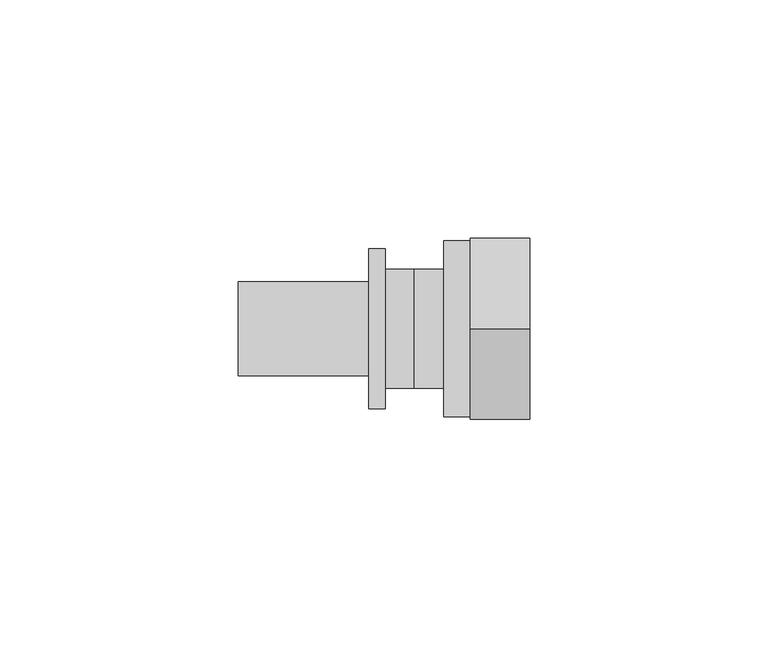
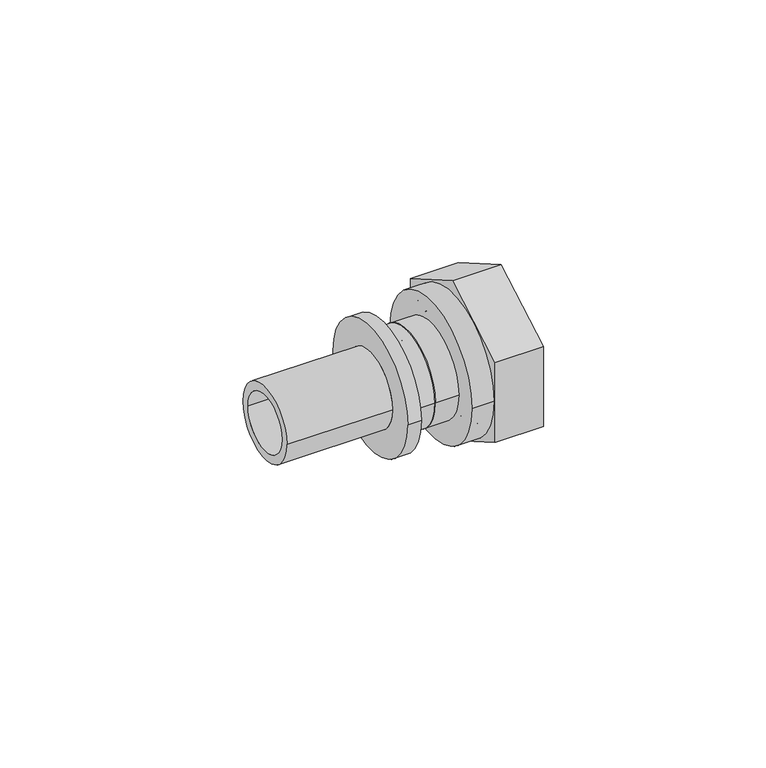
"""IFC4 building model written with IfcOpenShell, lengths in millimetres: pipe fitting geometry, REHAU_RAUTITAN_Adaptor_RX+_union nut : REHAU_RAUTITAN_Adaptor_RX+_union nut."""

import ifcopenshell
import ifcopenshell.guid

model = None  # the IFC model being written
_history = None  # IfcOwnerHistory: only IFC2X3 demands one
_inside = {}  # id of a spatial element -> (the spatial element, [elements in it])
_under = {}  # id of a project, library or spatial element -> (it, [spatial elements below it])
_declared = {}  # id of a project -> (the project, [libraries it declares])
_typed = {}  # id of a type object -> (the type object, [elements of that type])
_made_of = {}  # id of a material, layer set ... -> (it, [elements and type objects made of it])


def new_model(schema):
    """Start an empty IFC model of exactly this schema.

    Asked for "IFC4X3", IfcOpenShell would pick the latest addendum, in which some entities
    have other attributes; the version numbers below select the first issue.
    IFC2X3 requires an IfcOwnerHistory on every rooted entity: one is made here for all.
    """
    global model, _history
    if schema == "IFC4X3":
        model = ifcopenshell.file(schema_version=(4, 3, 0, 0))
    else:
        model = ifcopenshell.file(schema=schema)
    _inside.clear()
    _under.clear()
    _declared.clear()
    _typed.clear()
    _made_of.clear()
    _history = None
    if model.schema == "IFC2X3":
        org = make("IfcOrganization", Name="unknown")
        user = make(
            "IfcPersonAndOrganization",
            ThePerson=make("IfcPerson", FamilyName="unknown"),
            TheOrganization=org,
        )
        app = make(
            "IfcApplication",
            ApplicationDeveloper=org,
            Version="unknown",
            ApplicationFullName="unknown",
            ApplicationIdentifier="unknown",
        )
        _history = make(
            "IfcOwnerHistory",
            OwningUser=user,
            OwningApplication=app,
            ChangeAction="ADDED",
            CreationDate=0,
        )
    return model


def make(cls, **values):
    """One entity of the class cls with the attributes given. An attribute that is None is left unset."""
    return model.create_entity(
        cls, **{name: value for name, value in values.items() if value is not None}
    )


def rooted(cls, **values):
    """An entity with a GlobalId (a new one), such as an element, a storey or a relation."""
    return make(cls, GlobalId=ifcopenshell.guid.new(), OwnerHistory=_history, **values)


def si_unit(unit_type, name, prefix=None):
    """IfcSIUnit, for example si_unit("LENGTHUNIT", "METRE", prefix="MILLI")."""
    return make("IfcSIUnit", UnitType=unit_type, Prefix=prefix, Name=name)


def assignment(units):
    """IfcUnitAssignment: the units of a project."""
    return None if units is None else make("IfcUnitAssignment", Units=units)


def point(xyz):
    """IfcCartesianPoint."""
    return None if xyz is None else make("IfcCartesianPoint", Coordinates=xyz)


def direction(xyz):
    """IfcDirection."""
    return None if xyz is None else make("IfcDirection", DirectionRatios=xyz)


def frame(location, z_axis=None, x_axis=None):
    """IfcAxis2Placement3D, a coordinate frame: its origin and axes. An axis left out is left unset."""
    return make(
        "IfcAxis2Placement3D",
        Location=point(location),
        Axis=direction(z_axis),
        RefDirection=direction(x_axis),
    )


def frame_2d(location, x_axis=None):
    """IfcAxis2Placement2D, a coordinate frame in the plane: its origin and x axis."""
    return make(
        "IfcAxis2Placement2D", Location=point(location), RefDirection=direction(x_axis)
    )


def origin():
    """The frame at (0, 0, 0) with its axes left unset."""
    return frame((0.0, 0.0, 0.0))


def origin_2d():
    """The frame at (0, 0) in the plane with its x axis left unset."""
    return frame_2d((0.0, 0.0))


def place(relative_to, where):
    """IfcLocalPlacement: puts the frame where relative to a parent placement (None: the world)."""
    return make(
        "IfcLocalPlacement", PlacementRelTo=relative_to, RelativePlacement=where
    )


def context(
    kind, dimensions, precision=None, world=None, true_north=None, identifier=None
):
    """IfcGeometricRepresentationContext, for example the 3D "Model" context."""
    return make(
        "IfcGeometricRepresentationContext",
        ContextIdentifier=identifier,
        ContextType=kind,
        CoordinateSpaceDimension=dimensions,
        Precision=precision,
        WorldCoordinateSystem=world,
        TrueNorth=true_north,
    )


def project(units=None, contexts=None):
    """IfcProject with its units and contexts."""
    return rooted(
        "IfcProject",
        Name="project",
        RepresentationContexts=contexts,
        UnitsInContext=assignment(units),
    )


def spatial(cls, under=None, at=None, **own):
    """A site, building, storey or space (cls), placed at a placement, below another one or the project."""
    s = rooted(cls, ObjectPlacement=at, **own)
    if under is not None:
        _under.setdefault(under.id(), (under, []))[1].append(s)
    return s


def polyline(points):
    """IfcPolyline through the points."""
    return make("IfcPolyline", Points=[point(p) for p in points])


def circle_curve(where, radius):
    """IfcCircle in the frame where."""
    return make("IfcCircle", Position=where, Radius=radius)


def trimmed(basis, trim1, trim2, sense, master):
    """IfcTrimmedCurve: the piece of a basis curve between two trims."""
    return make(
        "IfcTrimmedCurve",
        BasisCurve=basis,
        Trim1=trim1,
        Trim2=trim2,
        SenseAgreement=sense,
        MasterRepresentation=master,
    )


def segment(curve, same_sense, transition):
    """IfcCompositeCurveSegment."""
    return make(
        "IfcCompositeCurveSegment",
        Transition=transition,
        SameSense=same_sense,
        ParentCurve=curve,
    )


def composite_curve(segments, self_intersect=None):
    """IfcCompositeCurve: segments joined end to end."""
    return make("IfcCompositeCurve", Segments=segments, SelfIntersect=self_intersect)


def outline(outer, holes=None, kind="AREA"):
    """IfcArbitraryClosedProfileDef: a profile drawn as a closed curve; with holes, ...WithVoids."""
    if holes is None:
        return make("IfcArbitraryClosedProfileDef", ProfileType=kind, OuterCurve=outer)
    return make(
        "IfcArbitraryProfileDefWithVoids",
        ProfileType=kind,
        OuterCurve=outer,
        InnerCurves=holes,
    )


def extrude(swept, where, along, depth):
    """IfcExtrudedAreaSolid: the profile swept, set in the frame where, extruded along a direction by depth."""
    return make(
        "IfcExtrudedAreaSolid",
        SweptArea=swept,
        Position=where,
        ExtrudedDirection=direction(along),
        Depth=depth,
    )


def shape(context_of_items, identifier, shape_type, items):
    """IfcShapeRepresentation: the items that make up one representation, for example the "Body"."""
    return make(
        "IfcShapeRepresentation",
        ContextOfItems=context_of_items,
        RepresentationIdentifier=identifier,
        RepresentationType=shape_type,
        Items=items,
    )


def source(mapping_origin, context_of_items, identifier, shape_type, items):
    """IfcRepresentationMap: a shape defined once, which mapped items show again and again."""
    return make(
        "IfcRepresentationMap",
        MappingOrigin=mapping_origin,
        MappedRepresentation=shape(context_of_items, identifier, shape_type, items),
    )


def transform(
    local_origin,
    x_axis=None,
    y_axis=None,
    z_axis=None,
    scale=None,
    scale2=None,
    scale3=None,
    uniform=True,
):
    """IfcCartesianTransformationOperator3D, or its non-uniform kind. x_axis, y_axis, z_axis: its Axis1, 2, 3."""
    if uniform:
        return make(
            "IfcCartesianTransformationOperator3D",
            Axis1=direction(x_axis),
            Axis2=direction(y_axis),
            LocalOrigin=point(local_origin),
            Scale=scale,
            Axis3=direction(z_axis),
        )
    return make(
        "IfcCartesianTransformationOperator3DnonUniform",
        Axis1=direction(x_axis),
        Axis2=direction(y_axis),
        LocalOrigin=point(local_origin),
        Scale=scale,
        Axis3=direction(z_axis),
        Scale2=scale2,
        Scale3=scale3,
    )


def mapped(mapping_source, mapping_target):
    """IfcMappedItem: shows the shape of a source again, moved by a transform."""
    return make(
        "IfcMappedItem", MappingSource=mapping_source, MappingTarget=mapping_target
    )


def made_of(thing, what):
    """Note that an element or type object is made of a material, layer set ...; save() writes the relation."""
    if what is not None:
        _made_of.setdefault(what.id(), (what, []))[1].append(thing)
    return thing


def element(
    cls,
    number,
    at=None,
    inside=None,
    cuts=None,
    type_object=None,
    material=None,
    context=None,
    identifier="Body",
    shape_type=None,
    held_by="IfcProductDefinitionShape",
    body=None,
    shapes=None,
    **own,
):
    """One element of the class cls, such as IfcWall. Its Tag is "e" and its number.

    at: its placement. inside: the storey or other place that contains it. cuts: it is an
    opening in that element (IfcRelVoidsElement). A single representation is given by context,
    identifier, shape_type and body (its items); several are given by shapes. held_by: the class
    of the entity that holds the representations. save() writes the other relations.
    """
    e = rooted(cls, Tag="e%d" % number, ObjectPlacement=at, **own)
    if body is not None:
        shapes = [shape(context, identifier, shape_type, body)]
    if shapes is not None:
        e.Representation = make(held_by, Representations=shapes)
    if inside is not None:
        _inside.setdefault(inside.id(), (inside, []))[1].append(e)
    if cuts is not None:
        rooted(
            "IfcRelVoidsElement", RelatingBuildingElement=cuts, RelatedOpeningElement=e
        )
    if type_object is not None:
        _typed.setdefault(type_object.id(), (type_object, []))[1].append(e)
    return made_of(e, material)


def aggregate(whole, parts):
    """IfcRelAggregates: a whole, such as a stair, and the parts it consists of."""
    return rooted("IfcRelAggregates", RelatingObject=whole, RelatedObjects=parts)


def save(model, path):
    """Write the relations noted so far, then the file.

    IfcRelAggregates (storeys below a building ...), IfcRelContainedInSpatialStructure (elements
    in a storey), IfcRelDefinesByType, IfcRelAssociatesMaterial and IfcRelDeclares: one each for
    every whole, place, type object, material and project.
    """
    for whole, parts in _under.values():
        aggregate(whole, parts)
    for where, things in _inside.values():
        rooted(
            "IfcRelContainedInSpatialStructure",
            RelatedElements=things,
            RelatingStructure=where,
        )
    for kind, things in _typed.values():
        rooted("IfcRelDefinesByType", RelatedObjects=things, RelatingType=kind)
    for what, things in _made_of.values():
        rooted("IfcRelAssociatesMaterial", RelatedObjects=things, RelatingMaterial=what)
    for by, libraries in _declared.values():
        rooted("IfcRelDeclares", RelatingContext=by, RelatedDefinitions=libraries)
    model.write(path)


def plane_surface(at):
    """IfcPlane: the flat surface through the origin of the frame at, square to its z axis."""
    return make("IfcPlane", Position=at)


def cylinder_surface(at, radius):
    """IfcCylindricalSurface: all points at the distance radius from the z axis of the frame at."""
    return make("IfcCylindricalSurface", Position=at, Radius=radius)


def revolved_surface(curve, axis_point, axis_direction):
    """IfcSurfaceOfRevolution: the curve turned about the line through axis_point along axis_direction."""
    return make(
        "IfcSurfaceOfRevolution",
        SweptCurve=make("IfcArbitraryOpenProfileDef", ProfileType="CURVE", Curve=curve),
        AxisPosition=make("IfcAxis1Placement", Location=point(axis_point), Axis=direction(axis_direction)),
    )


def advanced_brep(points, edges, surfaces, faces):
    """IfcAdvancedBrep: a solid bounded by faces that lie on surfaces and meet in shared edges.

    An edge is (start, end): straight between two places in points (the first is 0);
    or (start, end, curve); or (start, end, curve, False) where it runs against its curve.
    A face is (place in surfaces, loops), or (place, loops, False) where it looks against
    its surface's normal. A loop lists edges by number (the first is 1), with a minus sign
    where the edge is run from its end to its start. The first loop is the outer one.
    """
    corners = [point(p) for p in points]
    vertices = [make("IfcVertexPoint", VertexGeometry=c) for c in corners]
    made = []
    for start, end, *more in edges:
        made.append(
            make(
                "IfcEdgeCurve",
                EdgeStart=vertices[start],
                EdgeEnd=vertices[end],
                EdgeGeometry=more[0] if more else make("IfcPolyline", Points=[corners[start], corners[end]]),
                SameSense=more[1] if len(more) > 1 else True,
            )
        )
    hull = []
    for where, loops, *sense in faces:
        bounds = []
        for j, loop in enumerate(loops):
            ring = [make("IfcOrientedEdge", EdgeElement=made[abs(k) - 1], Orientation=k > 0) for k in loop]
            bounds.append(
                make(
                    "IfcFaceOuterBound" if j == 0 else "IfcFaceBound",
                    Bound=make("IfcEdgeLoop", EdgeList=ring),
                    Orientation=True,
                )
            )
        hull.append(make("IfcAdvancedFace", Bounds=bounds, FaceSurface=surfaces[where], SameSense=sense[0] if sense else True))
    return make("IfcAdvancedBrep", Outer=make("IfcClosedShell", CfsFaces=hull))


def pipe_fitting_bc3ce7b6(model_context):
    return source(origin(), model_context, "Body", "SolidModel", [
        extrude(outline(polyline([(0.0, -21.9393102), (-19.0, -10.9696551), (-19.0, 10.9696551), (0.0, 21.9393102), (19.0, 10.9696551), (19.0, -10.9696551), (0.0, -21.9393102)]), holes=[composite_curve([segment(trimmed(circle_curve(origin_2d(), 18.5), [point((-18.5, 0.0))], [point((18.5, 0.0))], True, "CARTESIAN"), True, "CONTINUOUS"), segment(trimmed(circle_curve(origin_2d(), 18.5), [point((18.5, 0.0))], [point((-18.5, 0.0))], True, "CARTESIAN"), True, "CONTINUOUS")], self_intersect=False)]), frame((11.7, 0.0, 0.0), z_axis=(1.0, 0.0, 0.0), x_axis=(0.0, 1.0, 0.0)), (0.0, 0.0, 1.0), 12.5),
        advanced_brep(
        [(24.2, 18.5, 0.0), (24.2, -18.5, 0.0), (6.1, -18.5, 0.0), (6.1, 18.5, 0.0), (9.0, 15.3, 0.0), (9.0, -15.3, 0.0), (24.2, -15.3, 0.0), (24.2, 15.3, 0.0), (6.1, 12.4, 0.0), (6.1, -12.4, 0.0), (9.0, -12.4, 0.0), (9.0, 12.4, 0.0)],
        [
            (0, 1, circle_curve(frame((24.2, 0.0, 0.0), z_axis=(-1.0, 0.0, 0.0), x_axis=(0.0, -1.0, 0.0)), 18.5)),
            (1, 2),
            (2, 3, circle_curve(frame((6.1, 0.0, 0.0), z_axis=(1.0, 0.0, 0.0), x_axis=(0.0, -1.0, 0.0)), 18.5)),
            (3, 0),
            (4, 5, circle_curve(frame((9.0, 0.0, 0.0), z_axis=(-1.0, 0.0, 0.0), x_axis=(0.0, -1.0, 0.0)), 15.3)),
            (5, 6),
            (6, 7, circle_curve(frame((24.2, 0.0, 0.0), z_axis=(1.0, 0.0, 0.0), x_axis=(0.0, -1.0, 0.0)), 15.3)),
            (7, 4),
            (8, 9, circle_curve(frame((6.1, 0.0, 0.0), z_axis=(-1.0, 0.0, 0.0), x_axis=(0.0, -1.0, 0.0)), 12.4)),
            (9, 10),
            (10, 11, circle_curve(frame((9.0, 0.0, 0.0), z_axis=(1.0, 0.0, 0.0), x_axis=(0.0, -1.0, 0.0)), 12.4)),
            (11, 8),
            (1, 0, circle_curve(frame((24.2, 0.0, 0.0), z_axis=(-1.0, 0.0, 0.0), x_axis=(0.0, 1.0, 0.0)), 18.5)),
            (3, 2, circle_curve(frame((6.1, 0.0, 0.0), z_axis=(1.0, 0.0, 0.0), x_axis=(0.0, 1.0, 0.0)), 18.5)),
            (6, 7, circle_curve(frame((24.2, 0.0, 0.0), z_axis=(-1.0, 0.0, 0.0), x_axis=(0.0, 1.0, 0.0)), 15.3)),
            (5, 4, circle_curve(frame((9.0, 0.0, 0.0), z_axis=(-1.0, 0.0, 0.0), x_axis=(0.0, 1.0, 0.0)), 15.3)),
            (10, 11, circle_curve(frame((9.0, 0.0, 0.0), z_axis=(-1.0, 0.0, 0.0), x_axis=(0.0, 1.0, 0.0)), 12.4)),
            (9, 8, circle_curve(frame((6.1, 0.0, 0.0), z_axis=(-1.0, 0.0, 0.0), x_axis=(0.0, 1.0, 0.0)), 12.4)),
        ],
        [
            cylinder_surface(frame((0.0, 0.0, 0.0), z_axis=(1.0, 0.0, 0.0), x_axis=(0.0, -1.0, 0.0)), 18.5),
            revolved_surface(polyline([(24.2, -15.3, 0.0), (9.0, -15.3, 0.0)]), (0.0, 0.0, 0.0), (1.0, 0.0, 0.0)),
            revolved_surface(polyline([(9.0, -12.4, 0.0), (6.1, -12.4, 0.0)]), (0.0, 0.0, 0.0), (1.0, 0.0, 0.0)),
            cylinder_surface(frame((0.0, 0.0, 0.0), z_axis=(1.0, 0.0, 0.0), x_axis=(0.0, 1.0, 0.0)), 18.5),
            plane_surface(frame((24.2, 0.0, 0.0), z_axis=(1.0, 0.0, 0.0), x_axis=(0.0, 1.0, 0.0))),
            revolved_surface(polyline([(24.2, 15.3, 0.0), (9.0, 15.3, 0.0)]), (0.0, 0.0, 0.0), (1.0, 0.0, 0.0)),
            plane_surface(frame((9.0, 0.0, 0.0), z_axis=(1.0, 0.0, 0.0), x_axis=(0.0, 1.0, 0.0))),
            revolved_surface(polyline([(9.0, 12.4, 0.0), (6.1, 12.4, 0.0)]), (0.0, 0.0, 0.0), (1.0, 0.0, 0.0)),
            plane_surface(frame((6.1, 0.0, 0.0), z_axis=(-1.0, 0.0, 0.0), x_axis=(0.0, 1.0, 0.0))),
        ],
        [
            (0, [[1, 2, 3, 4]]),
            (1, [[5, 6, 7, 8]]),
            (2, [[9, 10, 11, 12]]),
            (3, [[13, -4, 14, -2]]),
            (4, [[-13, -1], [15, -7]]),
            (5, [[16, -8, -15, -6]]),
            (6, [[-16, -5], [17, -11]]),
            (7, [[18, -12, -17, -10]]),
            (8, [[-14, -3], [-18, -9]]),
        ],
    ),
        advanced_brep(
        [(9.0, 12.5, 0.0), (9.0, -12.5, 0.0), (0.0, -12.5, 0.0), (0.0, 12.5, 0.0), (12.0, 15.3, 0.0), (12.0, -15.3, 0.0), (9.0, -15.3, 0.0), (9.0, 15.3, 0.0), (1.4730817, 10.0, 0.0), (1.4730817, -10.0, 0.0), (12.0, -10.0, 0.0), (12.0, 10.0, 0.0), (0.0, 7.8264556, 0.0), (0.0, -7.8264556, 0.0), (1.4730817, -7.8264556, 0.0), (1.4730817, 7.8264556, 0.0)],
        [
            (0, 1, circle_curve(frame((9.0, 0.0, 0.0), z_axis=(-1.0, 0.0, 0.0), x_axis=(0.0, -1.0, 0.0)), 12.5)),
            (1, 2),
            (2, 3, circle_curve(frame((0.0, 0.0, 0.0), z_axis=(1.0, 0.0, 0.0), x_axis=(0.0, -1.0, 0.0)), 12.5)),
            (3, 0),
            (4, 5, circle_curve(frame((12.0, 0.0, 0.0), z_axis=(-1.0, 0.0, 0.0), x_axis=(0.0, -1.0, 0.0)), 15.3)),
            (5, 6),
            (6, 7, circle_curve(frame((9.0, 0.0, 0.0), z_axis=(1.0, 0.0, 0.0), x_axis=(0.0, -1.0, 0.0)), 15.3)),
            (7, 4),
            (8, 9, circle_curve(frame((1.4730817, 0.0, 0.0), z_axis=(-1.0, 0.0, 0.0), x_axis=(0.0, -1.0, 0.0)), 10.0)),
            (9, 10),
            (10, 11, circle_curve(frame((12.0, 0.0, 0.0), z_axis=(1.0, 0.0, 0.0), x_axis=(0.0, -1.0, 0.0)), 10.0)),
            (11, 8),
            (2, 3, circle_curve(frame((0.0, 0.0, 0.0), z_axis=(-1.0, 0.0, 0.0), x_axis=(0.0, 1.0, 0.0)), 12.5)),
            (12, 13, circle_curve(frame((0.0, 0.0, 0.0), z_axis=(1.0, 0.0, 0.0), x_axis=(0.0, 1.0, 0.0)), 7.8264556)),
            (13, 12, circle_curve(frame((0.0, 0.0, 0.0), z_axis=(1.0, 0.0, 0.0), x_axis=(0.0, -1.0, 0.0)), 7.8264556)),
            (1, 0, circle_curve(frame((9.0, 0.0, 0.0), z_axis=(-1.0, 0.0, 0.0), x_axis=(0.0, 1.0, 0.0)), 12.5)),
            (6, 7, circle_curve(frame((9.0, 0.0, 0.0), z_axis=(-1.0, 0.0, 0.0), x_axis=(0.0, 1.0, 0.0)), 15.3)),
            (5, 4, circle_curve(frame((12.0, 0.0, 0.0), z_axis=(-1.0, 0.0, 0.0), x_axis=(0.0, 1.0, 0.0)), 15.3)),
            (10, 11, circle_curve(frame((12.0, 0.0, 0.0), z_axis=(-1.0, 0.0, 0.0), x_axis=(0.0, 1.0, 0.0)), 10.0)),
            (9, 8, circle_curve(frame((1.4730817, 0.0, 0.0), z_axis=(-1.0, 0.0, 0.0), x_axis=(0.0, 1.0, 0.0)), 10.0)),
            (13, 14),
            (14, 15, circle_curve(frame((1.4730817, 0.0, 0.0), z_axis=(1.0, 0.0, 0.0), x_axis=(0.0, -1.0, 0.0)), 7.8264556)),
            (15, 12),
            (14, 15, circle_curve(frame((1.4730817, 0.0, 0.0), z_axis=(-1.0, 0.0, 0.0), x_axis=(0.0, 1.0, 0.0)), 7.8264556)),
        ],
        [
            cylinder_surface(frame((0.0, 0.0, 0.0), z_axis=(1.0, 0.0, 0.0), x_axis=(0.0, -1.0, 0.0)), 12.5),
            cylinder_surface(frame((0.0, 0.0, 0.0), z_axis=(1.0, 0.0, 0.0), x_axis=(0.0, -1.0, 0.0)), 15.3),
            revolved_surface(polyline([(12.0, -10.0, 0.0), (1.4730817, -10.0, 0.0)]), (0.0, 0.0, 0.0), (1.0, 0.0, 0.0)),
            plane_surface(frame((0.0, 0.0, 0.0), z_axis=(-1.0, 0.0, 0.0), x_axis=(0.0, 1.0, 0.0))),
            cylinder_surface(frame((0.0, 0.0, 0.0), z_axis=(1.0, 0.0, 0.0), x_axis=(0.0, 1.0, 0.0)), 12.5),
            plane_surface(frame((9.0, 0.0, 0.0), z_axis=(-1.0, 0.0, 0.0), x_axis=(0.0, 1.0, 0.0))),
            cylinder_surface(frame((0.0, 0.0, 0.0), z_axis=(1.0, 0.0, 0.0), x_axis=(0.0, 1.0, 0.0)), 15.3),
            plane_surface(frame((12.0, 0.0, 0.0), z_axis=(1.0, 0.0, 0.0), x_axis=(0.0, 1.0, 0.0))),
            revolved_surface(polyline([(12.0, 10.0, 0.0), (1.4730817, 10.0, 0.0)]), (0.0, 0.0, 0.0), (1.0, 0.0, 0.0)),
            revolved_surface(polyline([(1.4730817, -7.8264556, 0.0), (0.0, -7.8264556, 0.0)]), (0.0, 0.0, 0.0), (1.0, 0.0, 0.0)),
            plane_surface(frame((1.4730817, 0.0, 0.0), z_axis=(1.0, 0.0, 0.0), x_axis=(0.0, 1.0, 0.0))),
            revolved_surface(polyline([(1.4730817, 7.8264556, 0.0), (0.0, 7.8264556, 0.0)]), (0.0, 0.0, 0.0), (1.0, 0.0, 0.0)),
        ],
        [
            (0, [[1, 2, 3, 4]]),
            (1, [[5, 6, 7, 8]]),
            (2, [[9, 10, 11, 12]]),
            (3, [[13, -3], [14, 15]]),
            (4, [[16, -4, -13, -2]]),
            (5, [[17, -7], [-16, -1]]),
            (6, [[18, -8, -17, -6]]),
            (7, [[-18, -5], [19, -11]]),
            (8, [[20, -12, -19, -10]]),
            (9, [[-15, 21, 22, 23]]),
            (10, [[-20, -9], [24, -22]]),
            (11, [[-14, -23, -24, -21]]),
        ],
    ),
        advanced_brep(
        [(0.0, 12.5, 0.0), (0.0, -12.5, 0.0), (-6.15, -12.5, 0.0), (-6.15, 12.5, 0.0), (-37.0, 7.6, 0.0), (-37.0, -7.6, 0.0), (0.0, -7.6, 0.0), (0.0, 7.6, 0.0), (-9.65, 9.875, 0.0), (-9.65, -9.875, 0.0), (-37.0, -9.875, 0.0), (-37.0, 9.875, 0.0), (-6.15, 16.8, 0.0), (-6.15, -16.8, 0.0), (-9.65, -16.8, 0.0), (-9.65, 16.8, 0.0)],
        [
            (0, 1, circle_curve(frame((0.0, 0.0, 0.0), z_axis=(-1.0, 0.0, 0.0), x_axis=(0.0, -1.0, 0.0)), 12.5)),
            (1, 2),
            (2, 3, circle_curve(frame((-6.15, 0.0, 0.0), z_axis=(1.0, 0.0, 0.0), x_axis=(0.0, -1.0, 0.0)), 12.5)),
            (3, 0),
            (4, 5, circle_curve(frame((-37.0, 0.0, 0.0), z_axis=(-1.0, 0.0, 0.0), x_axis=(0.0, -1.0, 0.0)), 7.6)),
            (5, 6),
            (6, 7, circle_curve(frame((0.0, 0.0, 0.0), z_axis=(1.0, 0.0, 0.0), x_axis=(0.0, -1.0, 0.0)), 7.6)),
            (7, 4),
            (8, 9, circle_curve(frame((-9.65, 0.0, 0.0), z_axis=(-1.0, 0.0, 0.0), x_axis=(0.0, -1.0, 0.0)), 9.875)),
            (9, 10),
            (10, 11, circle_curve(frame((-37.0, 0.0, 0.0), z_axis=(1.0, 0.0, 0.0), x_axis=(0.0, -1.0, 0.0)), 9.875)),
            (11, 8),
            (12, 13, circle_curve(frame((-6.15, 0.0, 0.0), z_axis=(-1.0, 0.0, 0.0), x_axis=(0.0, -1.0, 0.0)), 16.8)),
            (13, 14),
            (14, 15, circle_curve(frame((-9.65, 0.0, 0.0), z_axis=(1.0, 0.0, 0.0), x_axis=(0.0, -1.0, 0.0)), 16.8)),
            (15, 12),
            (1, 0, circle_curve(frame((0.0, 0.0, 0.0), z_axis=(-1.0, 0.0, 0.0), x_axis=(0.0, 1.0, 0.0)), 12.5)),
            (3, 2, circle_curve(frame((-6.15, 0.0, 0.0), z_axis=(1.0, 0.0, 0.0), x_axis=(0.0, 1.0, 0.0)), 12.5)),
            (6, 7, circle_curve(frame((0.0, 0.0, 0.0), z_axis=(-1.0, 0.0, 0.0), x_axis=(0.0, 1.0, 0.0)), 7.6)),
            (5, 4, circle_curve(frame((-37.0, 0.0, 0.0), z_axis=(-1.0, 0.0, 0.0), x_axis=(0.0, 1.0, 0.0)), 7.6)),
            (10, 11, circle_curve(frame((-37.0, 0.0, 0.0), z_axis=(-1.0, 0.0, 0.0), x_axis=(0.0, 1.0, 0.0)), 9.875)),
            (9, 8, circle_curve(frame((-9.65, 0.0, 0.0), z_axis=(-1.0, 0.0, 0.0), x_axis=(0.0, 1.0, 0.0)), 9.875)),
            (14, 15, circle_curve(frame((-9.65, 0.0, 0.0), z_axis=(-1.0, 0.0, 0.0), x_axis=(0.0, 1.0, 0.0)), 16.8)),
            (13, 12, circle_curve(frame((-6.15, 0.0, 0.0), z_axis=(-1.0, 0.0, 0.0), x_axis=(0.0, 1.0, 0.0)), 16.8)),
        ],
        [
            cylinder_surface(frame((0.0, 0.0, 0.0), z_axis=(1.0, 0.0, 0.0), x_axis=(0.0, -1.0, 0.0)), 12.5),
            revolved_surface(polyline([(0.0, -7.6, 0.0), (-37.0, -7.6, 0.0)]), (0.0, 0.0, 0.0), (1.0, 0.0, 0.0)),
            cylinder_surface(frame((0.0, 0.0, 0.0), z_axis=(1.0, 0.0, 0.0), x_axis=(0.0, -1.0, 0.0)), 9.875),
            cylinder_surface(frame((0.0, 0.0, 0.0), z_axis=(1.0, 0.0, 0.0), x_axis=(0.0, -1.0, 0.0)), 16.8),
            cylinder_surface(frame((0.0, 0.0, 0.0), z_axis=(1.0, 0.0, 0.0), x_axis=(0.0, 1.0, 0.0)), 12.5),
            plane_surface(frame((0.0, 0.0, 0.0), z_axis=(1.0, 0.0, 0.0), x_axis=(0.0, 1.0, 0.0))),
            revolved_surface(polyline([(0.0, 7.6, 0.0), (-37.0, 7.6, 0.0)]), (0.0, 0.0, 0.0), (1.0, 0.0, 0.0)),
            plane_surface(frame((-37.0, 0.0, 0.0), z_axis=(-1.0, 0.0, 0.0), x_axis=(0.0, 1.0, 0.0))),
            cylinder_surface(frame((0.0, 0.0, 0.0), z_axis=(1.0, 0.0, 0.0), x_axis=(0.0, 1.0, 0.0)), 9.875),
            plane_surface(frame((-9.65, 0.0, 0.0), z_axis=(-1.0, 0.0, 0.0), x_axis=(0.0, 1.0, 0.0))),
            cylinder_surface(frame((0.0, 0.0, 0.0), z_axis=(1.0, 0.0, 0.0), x_axis=(0.0, 1.0, 0.0)), 16.8),
            plane_surface(frame((-6.15, 0.0, 0.0), z_axis=(1.0, 0.0, 0.0), x_axis=(0.0, 1.0, 0.0))),
        ],
        [
            (0, [[1, 2, 3, 4]]),
            (1, [[5, 6, 7, 8]]),
            (2, [[9, 10, 11, 12]]),
            (3, [[13, 14, 15, 16]]),
            (4, [[17, -4, 18, -2]]),
            (5, [[-17, -1], [19, -7]]),
            (6, [[20, -8, -19, -6]]),
            (7, [[21, -11], [-20, -5]]),
            (8, [[22, -12, -21, -10]]),
            (9, [[23, -15], [-22, -9]]),
            (10, [[24, -16, -23, -14]]),
            (11, [[-24, -13], [-18, -3]]),
        ],
    ),
    ])


if __name__ == "__main__":
    model = new_model("IFC4")
    model_context = context("Model", 3, world=origin())
    ifc_project = project(units=[si_unit("LENGTHUNIT", "METRE", prefix="MILLI")], contexts=[model_context])
    site = spatial("IfcSite", under=ifc_project)
    building = spatial("IfcBuilding", under=site)
    placement = place(None, origin())
    pipe_fitting_shape = pipe_fitting_bc3ce7b6(model_context)
    element("IfcPipeFitting", 1, ObjectType="REHAU_RAUTITAN_Adaptor_RX+_union nut : REHAU_RAUTITAN_Adaptor_RX+_union nut", at=placement, inside=building, context=model_context, shape_type="MappedRepresentation", body=[
        mapped(pipe_fitting_shape, transform((0.0, 0.0, 0.0), x_axis=(1.0, 0.0, 0.0), y_axis=(0.0, 1.0, 0.0), z_axis=(0.0, 0.0, 1.0))),
    ])
    save(model, "model.ifc")
